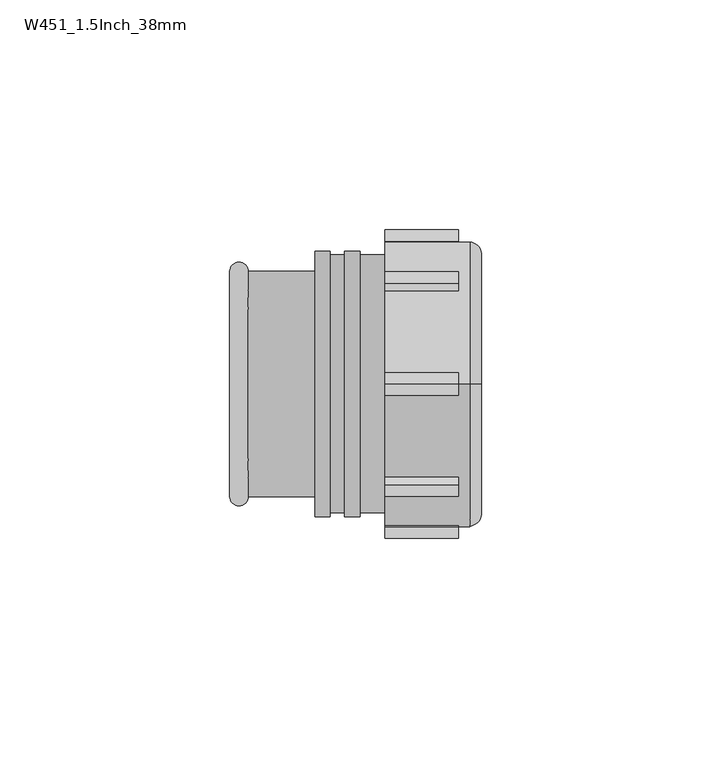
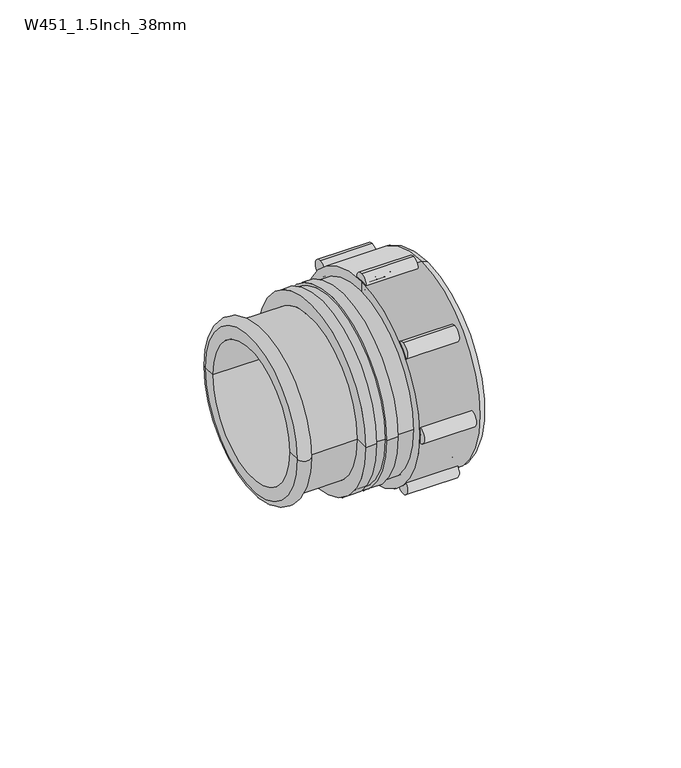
"""IFC4 building model written with IfcOpenShell, lengths in millimetres: pipe fitting geometry, Durapipe_PipeFitting_VulcatheneMechanical_GlassAdaptor_W45 : W451_1.5Inch_38mm."""

from ifc_helpers import new_model, si_unit, point, frame, frame_2d, origin, place, context, project, spatial, polyline, circle_curve, ellipse_curve, trimmed, segment, composite_curve, outline, extrude, source, transform, mapped, element, save
from ifc_brep_helpers import plane_surface, cylinder_surface, revolved_surface, advanced_brep


def w451_1_5inch_38mm_e0fa0fe0(model_context):
    return source(origin(), model_context, "Body", "SolidModel", [
        advanced_brep(
        [(23.15, 18.5969083, 18.5969083), (23.15, 17.1119841, 17.1119841), (23.15, -17.1119841, -17.1119841), (23.15, -18.5969083, -18.5969083), (18.15, 18.3140656, 18.3140656), (18.15, -18.3140656, -18.3140656), (16.65, 18.1019336, 18.1019336), (18.15, 18.1019336, 18.1019336), (18.15, -18.1019336, -18.1019336), (16.65, -18.1019336, -18.1019336), (16.65, -17.1119841, -17.1119841), (16.65, 17.1119841, 17.1119841), (18.65, -17.1119841, -17.1119841), (18.65, 17.1119841, 17.1119841), (18.65, -16.5462987, -16.5462987), (18.65, 16.5462987, 16.5462987), (20.95, 17.1119841, 17.1119841), (20.95, 16.5462987, 16.5462987), (20.95, -16.5462987, -16.5462987), (20.95, -17.1119841, -17.1119841)],
        [
            (0, 1),
            (1, 2, circle_curve(frame((23.15, 0.0, 0.0), z_axis=(-1.0, 0.0, 0.0), x_axis=(0.0, -0.7071067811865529, -0.7071067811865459)), 24.2)),
            (2, 3),
            (3, 0, circle_curve(frame((23.15, 0.0, 0.0), z_axis=(1.0, 0.0, 0.0), x_axis=(0.0, -0.7071067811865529, -0.7071067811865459)), 26.3)),
            (2, 1, circle_curve(frame((23.15, 0.0, 0.0), z_axis=(-1.0, 0.0, 0.0), x_axis=(0.0, -0.7071067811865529, -0.7071067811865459)), 24.2)),
            (0, 3, circle_curve(frame((23.15, 0.0, 0.0), z_axis=(1.0, 0.0, 0.0), x_axis=(0.0, -0.7071067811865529, -0.7071067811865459)), 26.3)),
            (4, 0),
            (3, 5),
            (5, 4, circle_curve(frame((18.15, 0.0, 0.0), z_axis=(1.0, 0.0, 0.0), x_axis=(0.0, -0.7071067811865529, -0.7071067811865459)), 25.9)),
            (4, 5, circle_curve(frame((18.15, 0.0, 0.0), z_axis=(1.0, 0.0, 0.0), x_axis=(0.0, -0.7071067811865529, -0.7071067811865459)), 25.9)),
            (6, 7),
            (7, 8, circle_curve(frame((18.15, 0.0, 0.0), z_axis=(-1.0, 0.0, 0.0), x_axis=(0.0, -0.7071067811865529, -0.7071067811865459)), 25.6)),
            (8, 9),
            (9, 6, circle_curve(frame((16.65, 0.0, 0.0), z_axis=(1.0, 0.0, 0.0), x_axis=(0.0, -0.7071067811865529, -0.7071067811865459)), 25.6)),
            (8, 7, circle_curve(frame((18.15, 0.0, 0.0), z_axis=(-1.0, 0.0, 0.0), x_axis=(0.0, -0.7071067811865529, -0.7071067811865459)), 25.6)),
            (6, 9, circle_curve(frame((16.65, 0.0, 0.0), z_axis=(1.0, 0.0, 0.0), x_axis=(0.0, -0.7071067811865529, -0.7071067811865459)), 25.6)),
            (9, 10),
            (10, 11, circle_curve(frame((16.65, 0.0, 0.0), z_axis=(1.0, 0.0, 0.0), x_axis=(0.0, -0.7071067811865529, -0.7071067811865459)), 24.2)),
            (11, 6),
            (11, 10, circle_curve(frame((16.65, 0.0, 0.0), z_axis=(1.0, 0.0, 0.0), x_axis=(0.0, -0.7071067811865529, -0.7071067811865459)), 24.2)),
            (10, 12),
            (12, 13, circle_curve(frame((18.65, 0.0, 0.0), z_axis=(1.0, 0.0, 0.0), x_axis=(0.0, -0.7071067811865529, -0.7071067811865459)), 24.2)),
            (13, 11),
            (13, 12, circle_curve(frame((18.65, 0.0, 0.0), z_axis=(1.0, 0.0, 0.0), x_axis=(0.0, -0.7071067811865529, -0.7071067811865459)), 24.2)),
            (12, 14),
            (14, 15, circle_curve(frame((18.65, 0.0, 0.0), z_axis=(1.0, 0.0, 0.0), x_axis=(0.0, -0.7071067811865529, -0.7071067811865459)), 23.4)),
            (15, 13),
            (15, 14, circle_curve(frame((18.65, 0.0, 0.0), z_axis=(1.0, 0.0, 0.0), x_axis=(0.0, -0.7071067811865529, -0.7071067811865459)), 23.4)),
            (16, 17),
            (17, 18, circle_curve(frame((20.95, 0.0, 0.0), z_axis=(-1.0, 0.0, 0.0), x_axis=(0.0, -0.7071067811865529, -0.7071067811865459)), 23.4)),
            (18, 19),
            (19, 16, circle_curve(frame((20.95, 0.0, 0.0), z_axis=(1.0, 0.0, 0.0), x_axis=(0.0, -0.7071067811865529, -0.7071067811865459)), 24.2)),
            (18, 17, circle_curve(frame((20.95, 0.0, 0.0), z_axis=(-1.0, 0.0, 0.0), x_axis=(0.0, -0.7071067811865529, -0.7071067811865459)), 23.4)),
            (16, 19, circle_curve(frame((20.95, 0.0, 0.0), z_axis=(1.0, 0.0, 0.0), x_axis=(0.0, -0.7071067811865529, -0.7071067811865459)), 24.2)),
            (1, 16),
            (19, 2),
            (14, 18),
            (17, 15),
            (5, 8),
            (7, 4),
        ],
        [
            plane_surface(frame((23.15, 0.0, 0.0), z_axis=(1.0, 0.0, 0.0), x_axis=(0.0, -0.707106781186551, -0.707106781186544))),
            revolved_surface(polyline([(23.15, -18.5969083, -18.5969083), (18.15, -18.3140656, -18.3140656)]), (28.15, 0.0, 0.0), (-1.0000000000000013, 0.0, 0.0)),
            cylinder_surface(frame((14.5793443, 0.0, 0.0), z_axis=(-1.0000000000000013, 0.0, 0.0), x_axis=(0.0, -0.7071067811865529, -0.7071067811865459)), 25.6),
            plane_surface(frame((16.65, 0.0, 0.0), z_axis=(-1.0, 0.0, 0.0), x_axis=(0.0, -0.707106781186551, -0.707106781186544))),
            revolved_surface(polyline([(16.650000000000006, -17.11198410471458, -17.11198410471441), (18.650000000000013, -17.11198410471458, -17.11198410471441)]), (13.157009, 0.0, 0.0), (-1.0000000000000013, 0.0, 0.0)),
            plane_surface(frame((18.65, 0.0, 0.0), z_axis=(-1.0, 0.0, 0.0), x_axis=(0.0, -0.707106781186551, -0.707106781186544))),
            plane_surface(frame((20.95, 0.0, 0.0), z_axis=(1.0, 0.0, 0.0), x_axis=(0.0, -0.707106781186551, -0.707106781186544))),
            revolved_surface(polyline([(20.94999999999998, -17.11198410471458, -17.11198410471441), (23.149999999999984, -17.11198410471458, -17.11198410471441)]), (28.15, 0.0, 0.0), (-1.0000000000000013, 0.0, 0.0)),
            revolved_surface(polyline([(18.649999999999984, -16.546298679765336, -16.546298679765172), (20.94999999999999, -16.546298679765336, -16.546298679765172)]), (24.7161924, 0.0, 0.0), (-1.0000000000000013, 0.0, 0.0)),
            plane_surface(frame((18.15, 0.0, 0.0), z_axis=(-1.0, 0.0, 0.0), x_axis=(0.0, -0.707106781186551, -0.707106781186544))),
        ],
        [
            (0, [[1, 2, 3, 4]]),
            (0, [[5, -1, 6, -3]]),
            (1, [[7, -4, 8, 9]]),
            (1, [[-8, -6, -7, 10]]),
            (2, [[11, 12, 13, 14]]),
            (2, [[15, -11, 16, -13]]),
            (3, [[17, 18, 19, -14]]),
            (3, [[-19, 20, -17, -16]]),
            (4, [[-18, 21, 22, 23]]),
            (4, [[24, -21, -20, -23]]),
            (5, [[25, 26, 27, -22]]),
            (5, [[-27, 28, -25, -24]]),
            (6, [[29, 30, 31, 32]]),
            (6, [[-31, 33, -29, 34]]),
            (7, [[35, -32, 36, -2]]),
            (7, [[-36, -34, -35, -5]]),
            (8, [[-26, 37, -30, 38]]),
            (8, [[-33, -37, -28, -38]]),
            (9, [[39, -12, 40, -9]]),
            (9, [[-40, -15, -39, -10]]),
        ],
    ),
        advanced_brep(
        [(6.45, 0.0, 31.0), (24.85, 0.0, 31.0), (24.85, 0.0, -31.0), (6.45, 0.0, -31.0), (6.45, 0.0, 26.0), (6.45, 0.0, -26.0), (27.35, 0.0, 28.5), (27.35, 0.0, 24.0), (27.35, 0.0, -24.0), (27.35, 0.0, -28.5), (23.15, 0.0, 26.0), (23.15, 0.0, -26.0), (23.15, 0.0, 24.0), (23.15, 0.0, -24.0)],
        [
            (0, 1),
            (1, 2, circle_curve(frame((24.85, 0.0, 0.0), z_axis=(-1.0, 0.0, 0.0), x_axis=(0.0, 0.0, -1.0000000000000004)), 31.0)),
            (2, 3),
            (3, 0, circle_curve(frame((6.45, 0.0, 0.0), z_axis=(1.0, 0.0, 0.0), x_axis=(0.0, 0.0, -1.0000000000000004)), 31.0)),
            (2, 1, circle_curve(frame((24.85, 0.0, 0.0), z_axis=(-1.0, 0.0, 0.0), x_axis=(0.0, 0.0, -1.0000000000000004)), 31.0)),
            (0, 3, circle_curve(frame((6.45, 0.0, 0.0), z_axis=(1.0, 0.0, 0.0), x_axis=(0.0, 0.0, -1.0000000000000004)), 31.0)),
            (4, 0),
            (3, 5),
            (5, 4, circle_curve(frame((6.45, 0.0, 0.0), z_axis=(1.0, 0.0, 0.0), x_axis=(0.0, 0.0, -1.0000000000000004)), 26.0)),
            (4, 5, circle_curve(frame((6.45, 0.0, 0.0), z_axis=(1.0, 0.0, 0.0), x_axis=(0.0, 0.0, -1.0000000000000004)), 26.0)),
            (6, 7),
            (7, 8, circle_curve(frame((27.35, 0.0, 0.0), z_axis=(-1.0, 0.0, 0.0), x_axis=(0.0, 0.0, -1.0000000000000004)), 24.0)),
            (8, 9),
            (9, 6, circle_curve(frame((27.35, 0.0, 0.0), z_axis=(1.0, 0.0, 0.0), x_axis=(0.0, 0.0, -1.0000000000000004)), 28.5)),
            (8, 7, circle_curve(frame((27.35, 0.0, 0.0), z_axis=(-1.0, 0.0, 0.0), x_axis=(0.0, 0.0, -1.0000000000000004)), 24.0)),
            (6, 9, circle_curve(frame((27.35, 0.0, 0.0), z_axis=(1.0, 0.0, 0.0), x_axis=(0.0, 0.0, -1.0000000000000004)), 28.5)),
            (1, 6, circle_curve(frame((24.85, 0.0, 28.5), z_axis=(0.0, 1.0000000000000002, 0.0), x_axis=(1.0000000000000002, 0.0, 0.0)), 2.5)),
            (9, 2, circle_curve(frame((24.85, 0.0, -28.5), z_axis=(0.0, 1.0000000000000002, 0.0), x_axis=(1.0000000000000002, 0.0, 0.0)), 2.5)),
            (10, 4),
            (5, 11),
            (11, 10, circle_curve(frame((23.15, 0.0, 0.0), z_axis=(1.0, 0.0, 0.0), x_axis=(0.0, 0.0, -1.0000000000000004)), 26.0)),
            (10, 11, circle_curve(frame((23.15, 0.0, 0.0), z_axis=(1.0, 0.0, 0.0), x_axis=(0.0, 0.0, -1.0000000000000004)), 26.0)),
            (12, 10),
            (11, 13),
            (13, 12, circle_curve(frame((23.15, 0.0, 0.0), z_axis=(1.0, 0.0, 0.0), x_axis=(0.0, 0.0, -1.0000000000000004)), 24.0)),
            (12, 13, circle_curve(frame((23.15, 0.0, 0.0), z_axis=(1.0, 0.0, 0.0), x_axis=(0.0, 0.0, -1.0000000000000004)), 24.0)),
            (7, 12),
            (13, 8),
        ],
        [
            cylinder_surface(frame((1588.1518184, 0.0, 0.0), z_axis=(-1.0000000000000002, 0.0, 0.0), x_axis=(0.0, 0.0, -1.0000000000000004)), 31.0),
            plane_surface(frame((6.45, 0.0, 0.0), z_axis=(-1.0, 0.0, 0.0), x_axis=(0.0, 0.0, -1.0))),
            plane_surface(frame((27.35, 0.0, 0.0), z_axis=(1.0, 0.0, 0.0), x_axis=(0.0, 0.0, -1.0))),
            revolved_surface(trimmed(ellipse_curve(frame((24.85, 0.0, -28.5), z_axis=(0.0, 1.0000000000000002, 0.0), x_axis=(1.0000000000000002, 0.0, 0.0)), 2.5, 2.5), [point((27.35, 0.0, -28.5))], [point((24.85, 0.0, -31.0))], True, "CARTESIAN"), (1588.1518184, 0.0, 0.0), (-1.0000000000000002, 0.0, 0.0)),
            revolved_surface(polyline([(6.449999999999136, 0.0, -26.00000000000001), (23.14999999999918, 0.0, -26.00000000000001)]), (1588.1518184, 0.0, 0.0), (-1.0000000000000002, 0.0, 0.0)),
            plane_surface(frame((23.15, 0.0, 0.0), z_axis=(-1.0, 0.0, 0.0), x_axis=(0.0, 0.0, -1.0))),
            revolved_surface(polyline([(23.14999999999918, 0.0, -24.00000000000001), (27.349999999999, 0.0, -24.00000000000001)]), (1588.1518184, 0.0, 0.0), (-1.0000000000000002, 0.0, 0.0)),
        ],
        [
            (0, [[1, 2, 3, 4]]),
            (0, [[-3, 5, -1, 6]]),
            (1, [[7, -4, 8, 9]]),
            (1, [[-8, -6, -7, 10]]),
            (2, [[11, 12, 13, 14]]),
            (2, [[-13, 15, -11, 16]]),
            (3, [[17, -14, 18, -2]]),
            (3, [[-18, -16, -17, -5]]),
            (4, [[19, -9, 20, 21]]),
            (4, [[-20, -10, -19, 22]]),
            (5, [[23, -21, 24, 25]]),
            (5, [[-24, -22, -23, 26]]),
            (6, [[27, -25, 28, -12]]),
            (6, [[-28, -26, -27, -15]]),
        ],
    ),
        extrude(outline(composite_curve([segment(trimmed(circle_curve(frame_2d((-31.0, 0.0)), 2.5), [point((-31.0, 2.5))], [point((-31.0, -2.5))], False, "CARTESIAN"), True, "CONTINUOUS"), segment(trimmed(circle_curve(frame_2d((-31.0, 0.0)), 2.5), [point((-31.0, -2.5))], [point((-31.0, 2.5))], False, "CARTESIAN"), True, "CONTINUOUS")], self_intersect=False)), frame((6.45, 0.0, 0.0), z_axis=(1.0, 0.0, 0.0), x_axis=(0.0, 1.0, 0.0)), (0.0, 0.0, 1.0), 15.9),
        extrude(outline(composite_curve([segment(trimmed(circle_curve(frame_2d((-21.9203102, -21.9203102)), 2.5), [point((-21.9203102, -19.4203102))], [point((-21.9203102, -24.4203102))], False, "CARTESIAN"), True, "CONTINUOUS"), segment(trimmed(circle_curve(frame_2d((-21.9203102, -21.9203102)), 2.5), [point((-21.9203102, -24.4203102))], [point((-21.9203102, -19.4203102))], False, "CARTESIAN"), True, "CONTINUOUS")], self_intersect=False)), frame((6.45, 0.0, 0.0), z_axis=(1.0, 0.0, 0.0), x_axis=(0.0, 1.0, 0.0)), (0.0, 0.0, 1.0), 15.9),
        extrude(outline(composite_curve([segment(trimmed(circle_curve(frame_2d((0.0, -31.0)), 2.5), [point((0.0, -28.5))], [point((0.0, -33.5))], False, "CARTESIAN"), True, "CONTINUOUS"), segment(trimmed(circle_curve(frame_2d((0.0, -31.0)), 2.5), [point((0.0, -33.5))], [point((0.0, -28.5))], False, "CARTESIAN"), True, "CONTINUOUS")], self_intersect=False)), frame((6.45, 0.0, 0.0), z_axis=(1.0, 0.0, 0.0), x_axis=(0.0, 1.0, 0.0)), (0.0, 0.0, 1.0), 15.9),
        extrude(outline(composite_curve([segment(trimmed(circle_curve(frame_2d((21.9203102, -21.9203102)), 2.5), [point((21.9203102, -19.4203102))], [point((21.9203102, -24.4203102))], False, "CARTESIAN"), True, "CONTINUOUS"), segment(trimmed(circle_curve(frame_2d((21.9203102, -21.9203102)), 2.5), [point((21.9203102, -24.4203102))], [point((21.9203102, -19.4203102))], False, "CARTESIAN"), True, "CONTINUOUS")], self_intersect=False)), frame((6.45, 0.0, 0.0), z_axis=(1.0, 0.0, 0.0), x_axis=(0.0, 1.0, 0.0)), (0.0, 0.0, 1.0), 15.9),
        extrude(outline(composite_curve([segment(trimmed(circle_curve(frame_2d((31.0, 0.0)), 2.5), [point((31.0, 2.5))], [point((31.0, -2.5))], False, "CARTESIAN"), True, "CONTINUOUS"), segment(trimmed(circle_curve(frame_2d((31.0, 0.0)), 2.5), [point((31.0, -2.5))], [point((31.0, 2.5))], False, "CARTESIAN"), True, "CONTINUOUS")], self_intersect=False)), frame((6.45, 0.0, 0.0), z_axis=(1.0, 0.0, 0.0), x_axis=(0.0, 1.0, 0.0)), (0.0, 0.0, 1.0), 15.9),
        extrude(outline(composite_curve([segment(trimmed(circle_curve(frame_2d((21.9203102, 21.9203102)), 2.5), [point((21.9203102, 24.4203102))], [point((21.9203102, 19.4203102))], False, "CARTESIAN"), True, "CONTINUOUS"), segment(trimmed(circle_curve(frame_2d((21.9203102, 21.9203102)), 2.5), [point((21.9203102, 19.4203102))], [point((21.9203102, 24.4203102))], False, "CARTESIAN"), True, "CONTINUOUS")], self_intersect=False)), frame((6.45, 0.0, 0.0), z_axis=(1.0, 0.0, 0.0), x_axis=(0.0, 1.0, 0.0)), (0.0, 0.0, 1.0), 15.9),
        extrude(outline(composite_curve([segment(trimmed(circle_curve(frame_2d((0.0, 31.0)), 2.5), [point((0.0, 33.5))], [point((0.0, 28.5))], False, "CARTESIAN"), True, "CONTINUOUS"), segment(trimmed(circle_curve(frame_2d((0.0, 31.0)), 2.5), [point((0.0, 28.5))], [point((0.0, 33.5))], False, "CARTESIAN"), True, "CONTINUOUS")], self_intersect=False)), frame((6.45, 0.0, 0.0), z_axis=(1.0, 0.0, 0.0), x_axis=(0.0, 1.0, 0.0)), (0.0, 0.0, 1.0), 15.9),
        extrude(outline(composite_curve([segment(trimmed(circle_curve(frame_2d((-21.9203102, 21.9203102)), 2.5), [point((-21.9203102, 24.4203102))], [point((-21.9203102, 19.4203102))], False, "CARTESIAN"), True, "CONTINUOUS"), segment(trimmed(circle_curve(frame_2d((-21.9203102, 21.9203102)), 2.5), [point((-21.9203102, 19.4203102))], [point((-21.9203102, 24.4203102))], False, "CARTESIAN"), True, "CONTINUOUS")], self_intersect=False)), frame((6.45, 0.0, 0.0), z_axis=(1.0, 0.0, 0.0), x_axis=(0.0, 1.0, 0.0)), (0.0, 0.0, 1.0), 15.9),
        advanced_brep(
        [(-3.85, -24.35, 0.0), (-3.85, 24.35, 0.0), (-3.85, 20.6, 0.0), (-3.85, -20.6, 0.0), (23.15, -24.35, 0.0), (23.15, 24.35, 0.0), (23.15, -28.05, 0.0), (23.15, 28.05, 0.0), (0.95, -28.05, 0.0), (0.95, 28.05, 0.0), (0.95, -28.85, 0.0), (0.95, 28.85, 0.0), (-2.35, -28.85, 0.0), (-2.35, 28.85, 0.0), (-2.35, -28.05, 0.0), (-2.35, 28.05, 0.0), (-5.55, -28.05, 0.0), (-5.55, 28.05, 0.0), (-5.55, -28.85, 0.0), (-5.55, 28.85, 0.0), (-8.85, -28.85, 0.0), (-8.85, 28.85, 0.0), (-8.85, -24.5, 0.0), (-8.85, 24.5, 0.0), (-23.35, -24.5, 0.0), (-23.35, 24.5, 0.0), (-27.35, -24.5, 0.0), (-27.35, 24.5, 0.0), (-27.35, -20.6, 0.0), (-27.35, 20.6, 0.0)],
        [
            (0, 1, circle_curve(frame((-3.85, 0.0, 0.0), z_axis=(1.0, 0.0, 0.0), x_axis=(0.0, 1.0, 0.0)), 24.35)),
            (1, 2),
            (2, 3, circle_curve(frame((-3.85, 0.0, 0.0), z_axis=(-1.0, 0.0, 0.0), x_axis=(0.0, 1.0, 0.0)), 20.6)),
            (3, 0),
            (1, 0, circle_curve(frame((-3.85, 0.0, 0.0), z_axis=(1.0, 0.0, 0.0), x_axis=(0.0, 1.0, 0.0)), 24.35)),
            (3, 2, circle_curve(frame((-3.85, 0.0, 0.0), z_axis=(-1.0, 0.0, 0.0), x_axis=(0.0, 1.0, 0.0)), 20.6)),
            (4, 5, circle_curve(frame((23.15, 0.0, 0.0), z_axis=(1.0, 0.0, 0.0), x_axis=(0.0, 1.0, 0.0)), 24.35)),
            (5, 1),
            (0, 4),
            (5, 4, circle_curve(frame((23.15, 0.0, 0.0), z_axis=(1.0, 0.0, 0.0), x_axis=(0.0, 1.0, 0.0)), 24.35)),
            (6, 7, circle_curve(frame((23.15, 0.0, 0.0), z_axis=(1.0, 0.0, 0.0), x_axis=(0.0, 1.0, 0.0)), 28.05)),
            (7, 5),
            (4, 6),
            (7, 6, circle_curve(frame((23.15, 0.0, 0.0), z_axis=(1.0, 0.0, 0.0), x_axis=(0.0, 1.0, 0.0)), 28.05)),
            (8, 9, circle_curve(frame((0.95, 0.0, 0.0), z_axis=(1.0, 0.0, 0.0), x_axis=(0.0, 1.0, 0.0)), 28.05)),
            (9, 7),
            (6, 8),
            (9, 8, circle_curve(frame((0.95, 0.0, 0.0), z_axis=(1.0, 0.0, 0.0), x_axis=(0.0, 1.0, 0.0)), 28.05)),
            (10, 11, circle_curve(frame((0.95, 0.0, 0.0), z_axis=(1.0, 0.0, 0.0), x_axis=(0.0, 1.0, 0.0)), 28.85)),
            (11, 9),
            (8, 10),
            (11, 10, circle_curve(frame((0.95, 0.0, 0.0), z_axis=(1.0, 0.0, 0.0), x_axis=(0.0, 1.0, 0.0)), 28.85)),
            (12, 13, circle_curve(frame((-2.35, 0.0, 0.0), z_axis=(1.0, 0.0, 0.0), x_axis=(0.0, 1.0, 0.0)), 28.85)),
            (13, 11),
            (10, 12),
            (13, 12, circle_curve(frame((-2.35, 0.0, 0.0), z_axis=(1.0, 0.0, 0.0), x_axis=(0.0, 1.0, 0.0)), 28.85)),
            (14, 15, circle_curve(frame((-2.35, 0.0, 0.0), z_axis=(1.0, 0.0, 0.0), x_axis=(0.0, 1.0, 0.0)), 28.05)),
            (15, 13),
            (12, 14),
            (15, 14, circle_curve(frame((-2.35, 0.0, 0.0), z_axis=(1.0, 0.0, 0.0), x_axis=(0.0, 1.0, 0.0)), 28.05)),
            (16, 17, circle_curve(frame((-5.55, 0.0, 0.0), z_axis=(1.0, 0.0, 0.0), x_axis=(0.0, 1.0, 0.0)), 28.05)),
            (17, 15),
            (14, 16),
            (17, 16, circle_curve(frame((-5.55, 0.0, 0.0), z_axis=(1.0, 0.0, 0.0), x_axis=(0.0, 1.0, 0.0)), 28.05)),
            (18, 19, circle_curve(frame((-5.55, 0.0, 0.0), z_axis=(1.0, 0.0, 0.0), x_axis=(0.0, 1.0, 0.0)), 28.85)),
            (19, 17),
            (16, 18),
            (19, 18, circle_curve(frame((-5.55, 0.0, 0.0), z_axis=(1.0, 0.0, 0.0), x_axis=(0.0, 1.0, 0.0)), 28.85)),
            (20, 21, circle_curve(frame((-8.85, 0.0, 0.0), z_axis=(1.0, 0.0, 0.0), x_axis=(0.0, 1.0, 0.0)), 28.85)),
            (21, 19),
            (18, 20),
            (21, 20, circle_curve(frame((-8.85, 0.0, 0.0), z_axis=(1.0, 0.0, 0.0), x_axis=(0.0, 1.0, 0.0)), 28.85)),
            (22, 23, circle_curve(frame((-8.85, 0.0, 0.0), z_axis=(1.0, 0.0, 0.0), x_axis=(0.0, 1.0, 0.0)), 24.5)),
            (23, 21),
            (20, 22),
            (23, 22, circle_curve(frame((-8.85, 0.0, 0.0), z_axis=(1.0, 0.0, 0.0), x_axis=(0.0, 1.0, 0.0)), 24.5)),
            (24, 25, circle_curve(frame((-23.35, 0.0, 0.0), z_axis=(1.0, 0.0, 0.0), x_axis=(0.0, 1.0, 0.0)), 24.5)),
            (25, 23),
            (22, 24),
            (25, 24, circle_curve(frame((-23.35, 0.0, 0.0), z_axis=(1.0, 0.0, 0.0), x_axis=(0.0, 1.0, 0.0)), 24.5)),
            (26, 27, circle_curve(frame((-27.35, 0.0, 0.0), z_axis=(1.0, 0.0, 0.0), x_axis=(0.0, 1.0, 0.0)), 24.5)),
            (27, 25, circle_curve(frame((-25.35, 24.5, 0.0), z_axis=(0.0, 0.0, -1.0), x_axis=(1.0, 0.0, 0.0)), 2.0)),
            (24, 26, circle_curve(frame((-25.35, -24.5, 0.0), z_axis=(0.0, 0.0, -1.0), x_axis=(1.0, 0.0, 0.0)), 2.0)),
            (27, 26, circle_curve(frame((-27.35, 0.0, 0.0), z_axis=(1.0, 0.0, 0.0), x_axis=(0.0, 1.0, 0.0)), 24.5)),
            (28, 29, circle_curve(frame((-27.35, 0.0, 0.0), z_axis=(1.0, 0.0, 0.0), x_axis=(0.0, 1.0, 0.0)), 20.6)),
            (29, 27),
            (26, 28),
            (29, 28, circle_curve(frame((-27.35, 0.0, 0.0), z_axis=(1.0, 0.0, 0.0), x_axis=(0.0, 1.0, 0.0)), 20.6)),
            (2, 29),
            (28, 3),
        ],
        [
            plane_surface(frame((-3.85, 0.0, 0.0), z_axis=(1.0, 0.0, 0.0), x_axis=(0.0, 1.0, 0.0))),
            revolved_surface(polyline([(-3.8500000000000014, 24.35, 0.0), (23.15, 24.35, 0.0)]), (-52.35, 0.0, 0.0), (-1.0, 0.0, 0.0)),
            plane_surface(frame((23.15, 0.0, 0.0), z_axis=(1.0, 0.0, 0.0), x_axis=(0.0, 1.0, 0.0))),
            cylinder_surface(frame((-52.35, 0.0, 0.0), z_axis=(-1.0, 0.0, 0.0), x_axis=(0.0, 1.0, 0.0)), 28.05),
            plane_surface(frame((0.95, 0.0, 0.0), z_axis=(1.0, 0.0, 0.0), x_axis=(0.0, 1.0, 0.0))),
            cylinder_surface(frame((-52.35, 0.0, 0.0), z_axis=(-1.0, 0.0, 0.0), x_axis=(0.0, 1.0, 0.0)), 28.85),
            plane_surface(frame((-2.35, 0.0, 0.0), z_axis=(-1.0, 0.0, 0.0), x_axis=(0.0, 1.0, 0.0))),
            plane_surface(frame((-5.55, 0.0, 0.0), z_axis=(1.0, 0.0, 0.0), x_axis=(0.0, 1.0, 0.0))),
            plane_surface(frame((-8.85, 0.0, 0.0), z_axis=(-1.0, 0.0, 0.0), x_axis=(0.0, 1.0, 0.0))),
            cylinder_surface(frame((-52.35, 0.0, 0.0), z_axis=(-1.0, 0.0, 0.0), x_axis=(0.0, 1.0, 0.0)), 24.5),
            revolved_surface(trimmed(ellipse_curve(frame((-25.35, 24.5, 0.0), z_axis=(0.0, 0.0, 1.0), x_axis=(1.0, 0.0, 0.0)), 2.0, 2.0), [point((-23.35, 24.5, 0.0))], [point((-27.35, 24.5, 0.0))], True, "CARTESIAN"), (-52.35, 0.0, 0.0), (-1.0, 0.0, 0.0)),
            plane_surface(frame((-27.35, 0.0, 0.0), z_axis=(-1.0, 0.0, 0.0), x_axis=(0.0, 1.0, 0.0))),
            revolved_surface(polyline([(-27.35, 20.6, 0.0), (-3.8500000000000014, 20.6, 0.0)]), (-52.35, 0.0, 0.0), (-1.0, 0.0, 0.0)),
        ],
        [
            (0, [[1, 2, 3, 4]]),
            (0, [[5, -4, 6, -2]]),
            (1, [[7, 8, -1, 9]]),
            (1, [[10, -9, -5, -8]]),
            (2, [[11, 12, -7, 13]]),
            (2, [[14, -13, -10, -12]]),
            (3, [[15, 16, -11, 17]]),
            (3, [[18, -17, -14, -16]]),
            (4, [[19, 20, -15, 21]]),
            (4, [[22, -21, -18, -20]]),
            (5, [[23, 24, -19, 25]]),
            (5, [[26, -25, -22, -24]]),
            (6, [[27, 28, -23, 29]]),
            (6, [[30, -29, -26, -28]]),
            (3, [[31, 32, -27, 33]]),
            (3, [[34, -33, -30, -32]]),
            (7, [[35, 36, -31, 37]]),
            (7, [[38, -37, -34, -36]]),
            (5, [[39, 40, -35, 41]]),
            (5, [[42, -41, -38, -40]]),
            (8, [[43, 44, -39, 45]]),
            (8, [[46, -45, -42, -44]]),
            (9, [[47, 48, -43, 49]]),
            (9, [[50, -49, -46, -48]]),
            (10, [[51, 52, -47, 53]]),
            (10, [[54, -53, -50, -52]]),
            (11, [[55, 56, -51, 57]]),
            (11, [[58, -57, -54, -56]]),
            (12, [[-3, 59, -55, 60]]),
            (12, [[-6, -60, -58, -59]]),
        ],
    ),
    ])


if __name__ == "__main__":
    model = new_model("IFC4")
    model_context = context("Model", 3, world=origin())
    ifc_project = project(units=[si_unit("LENGTHUNIT", "METRE", prefix="MILLI")], contexts=[model_context])
    site = spatial("IfcSite", under=ifc_project)
    building = spatial("IfcBuilding", under=site)
    placement = place(None, origin())
    w451_1_5inch_38mm_shape = w451_1_5inch_38mm_e0fa0fe0(model_context)
    element("IfcPipeFitting", 1, ObjectType="Durapipe_PipeFitting_VulcatheneMechanical_GlassAdaptor_W45 : W451_1.5Inch_38mm", at=placement, inside=building, context=model_context, shape_type="MappedRepresentation", body=[
        mapped(w451_1_5inch_38mm_shape, transform((0.0, 0.0, 0.0), x_axis=(1.0, 0.0, 0.0), y_axis=(0.0, 1.0, 0.0), z_axis=(0.0, 0.0, 1.0))),
    ])
    save(model, "model.ifc")
